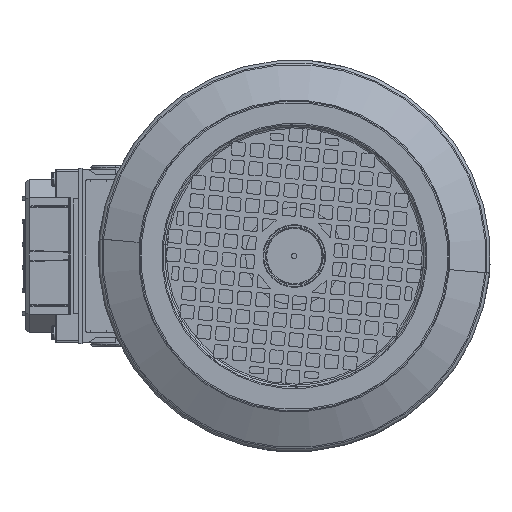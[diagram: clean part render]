
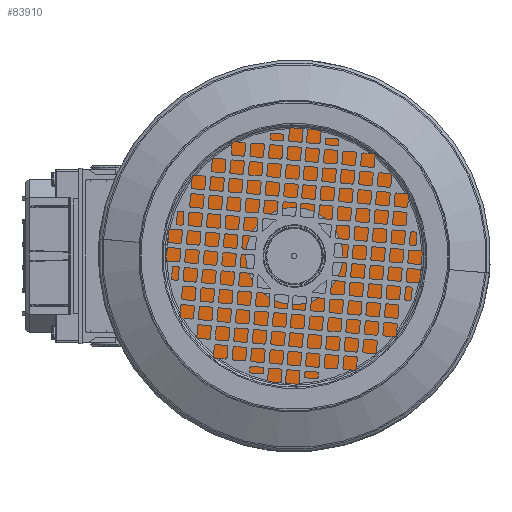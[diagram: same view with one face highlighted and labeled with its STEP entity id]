
A CAD part, left-side view. The second image highlights one B-rep face of the part: STEP entity #83910.
In plain terms, the highlighted planar face has unit normal (-1, 0, 0).
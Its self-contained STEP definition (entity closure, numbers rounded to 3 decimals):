
#86 = CARTESIAN_POINT ( 'NONE',  ( 0., 0., 27.5 ) ) ;
#1207 = CARTESIAN_POINT ( 'NONE',  ( 0., 2.967, -88.45 ) ) ;
#1359 = CARTESIAN_POINT ( 'NONE',  ( 0., 0., -98. ) ) ;
#1428 = AXIS2_PLACEMENT_3D ( 'NONE', #75783, #18765, #85353 ) ;
#3432 = EDGE_CURVE ( 'NONE', #5200, #31839, #74847, .T. ) ;
#3534 = CARTESIAN_POINT ( 'NONE',  ( 0., 0., 0. ) ) ;
#5200 = VERTEX_POINT ( 'NONE', #44485 ) ;
#9428 = DIRECTION ( 'NONE',  ( -1., 0., 0. ) ) ;
#9933 = CIRCLE ( 'NONE', #30216, 27.5 ) ;
#10000 = VERTEX_POINT ( 'NONE', #81688 ) ;
#10492 = CARTESIAN_POINT ( 'NONE',  ( 0., 0., 0. ) ) ;
#10930 = DIRECTION ( 'NONE',  ( 0., 0., 1. ) ) ;
#11485 = VERTEX_POINT ( 'NONE', #86 ) ;
#13112 = DIRECTION ( 'NONE',  ( 0., 0., 1. ) ) ;
#14859 = ORIENTED_EDGE ( 'NONE', *, *, #52911, .F. ) ;
#15115 = AXIS2_PLACEMENT_3D ( 'NONE', #54388, #120921, #64016 ) ;
#18765 = DIRECTION ( 'NONE',  ( 1., 0., 0. ) ) ;
#18857 = FACE_OUTER_BOUND ( 'NONE', #34713, .T. ) ;
#18962 = CARTESIAN_POINT ( 'NONE',  ( 0., 88.45, 2.967 ) ) ;
#19809 = CARTESIAN_POINT ( 'NONE',  ( 0., 0., 0. ) ) ;
#20065 = DIRECTION ( 'NONE',  ( 0., 0., 1. ) ) ;
#22155 = CARTESIAN_POINT ( 'NONE',  ( 0., 88.45, -2.967 ) ) ;
#26672 = EDGE_CURVE ( 'NONE', #5200, #29623, #76789, .T. ) ;
#27120 = AXIS2_PLACEMENT_3D ( 'NONE', #95916, #38914, #105457 ) ;
#29324 = DIRECTION ( 'NONE',  ( 0., 0., 1. ) ) ;
#29623 = VERTEX_POINT ( 'NONE', #1207 ) ;
#29647 = AXIS2_PLACEMENT_3D ( 'NONE', #3534, #70159, #13112 ) ;
#30216 = AXIS2_PLACEMENT_3D ( 'NONE', #30685, #97283, #40313 ) ;
#30685 = CARTESIAN_POINT ( 'NONE',  ( 0., 0., 0. ) ) ;
#31839 = VERTEX_POINT ( 'NONE', #103994 ) ;
#32089 = AXIS2_PLACEMENT_3D ( 'NONE', #1359, #67994, #10930 ) ;
#32819 = ORIENTED_EDGE ( 'NONE', *, *, #41016, .T. ) ;
#33852 = VERTEX_POINT ( 'NONE', #122587 ) ;
#34713 = EDGE_LOOP ( 'NONE', ( #40722, #32819, #76145, #91027, #76073, #58251, #104477, #81540, #94846 ) ) ;
#37672 = EDGE_CURVE ( 'NONE', #33852, #31839, #77612, .T. ) ;
#38680 = CARTESIAN_POINT ( 'NONE',  ( 0., -2.967, 88.45 ) ) ;
#38914 = DIRECTION ( 'NONE',  ( -1., 0., 0. ) ) ;
#40313 = DIRECTION ( 'NONE',  ( 0., 0., 1. ) ) ;
#40530 = VERTEX_POINT ( 'NONE', #38680 ) ;
#40722 = ORIENTED_EDGE ( 'NONE', *, *, #37672, .F. ) ;
#41016 = EDGE_CURVE ( 'NONE', #33852, #40530, #123431, .T. ) ;
#42897 = DIRECTION ( 'NONE',  ( -1., 0., 0. ) ) ;
#44485 = CARTESIAN_POINT ( 'NONE',  ( 0., -2.967, -88.45 ) ) ;
#45814 = DIRECTION ( 'NONE',  ( -1., 0., 0. ) ) ;
#46862 = CIRCLE ( 'NONE', #118183, 10. ) ;
#47384 = EDGE_CURVE ( 'NONE', #11485, #110985, #57592, .T. ) ;
#49462 = AXIS2_PLACEMENT_3D ( 'NONE', #19809, #86369, #29324 ) ;
#50134 = ORIENTED_EDGE ( 'NONE', *, *, #47384, .F. ) ;
#52911 = EDGE_CURVE ( 'NONE', #110985, #11485, #9933, .T. ) ;
#53097 = EDGE_CURVE ( 'NONE', #10000, #111991, #81344, .T. ) ;
#53229 = CARTESIAN_POINT ( 'NONE',  ( 0., 0., 88. ) ) ;
#53785 = EDGE_CURVE ( 'NONE', #95594, #111991, #96001, .T. ) ;
#54388 = CARTESIAN_POINT ( 'NONE',  ( 0., 0., 0. ) ) ;
#54497 = VERTEX_POINT ( 'NONE', #53229 ) ;
#55521 = CARTESIAN_POINT ( 'NONE',  ( 0., 0., 0. ) ) ;
#57592 = CIRCLE ( 'NONE', #29647, 27.5 ) ;
#58251 = ORIENTED_EDGE ( 'NONE', *, *, #53785, .F. ) ;
#58934 = EDGE_LOOP ( 'NONE', ( #50134, #14859 ) ) ;
#64016 = DIRECTION ( 'NONE',  ( 0., 0., 1. ) ) ;
#64608 = CARTESIAN_POINT ( 'NONE',  ( 0., 0., -27.5 ) ) ;
#65140 = DIRECTION ( 'NONE',  ( 0., 0., 1. ) ) ;
#66498 = CARTESIAN_POINT ( 'NONE',  ( 0., -98., 0. ) ) ;
#67994 = DIRECTION ( 'NONE',  ( -1., 0., 0. ) ) ;
#69494 = FACE_BOUND ( 'NONE', #58934, .T. ) ;
#70159 = DIRECTION ( 'NONE',  ( -1., 0., 0. ) ) ;
#74847 = CIRCLE ( 'NONE', #91707, 88.5 ) ;
#75783 = CARTESIAN_POINT ( 'NONE',  ( 0., 88.5, 0. ) ) ;
#76037 = DIRECTION ( 'NONE',  ( 0., 0., 1. ) ) ;
#76073 = ORIENTED_EDGE ( 'NONE', *, *, #53097, .T. ) ;
#76145 = ORIENTED_EDGE ( 'NONE', *, *, #120968, .F. ) ;
#76789 = CIRCLE ( 'NONE', #32089, 10. ) ;
#77121 = DIRECTION ( 'NONE',  ( -1., 0., 0. ) ) ;
#77612 = CIRCLE ( 'NONE', #97750, 10. ) ;
#81344 = CIRCLE ( 'NONE', #15115, 88.5 ) ;
#81540 = ORIENTED_EDGE ( 'NONE', *, *, #26672, .F. ) ;
#81688 = CARTESIAN_POINT ( 'NONE',  ( 0., 2.967, 88.45 ) ) ;
#83228 = PLANE ( 'NONE',  #1428 ) ;
#83910 = ADVANCED_FACE ( 'NONE', ( #69494, #18857 ), #83228, .F. ) ;
#85353 = DIRECTION ( 'NONE',  ( 0., 0., -1. ) ) ;
#86369 = DIRECTION ( 'NONE',  ( -1., 0., 0. ) ) ;
#89149 = CIRCLE ( 'NONE', #117837, 10. ) ;
#91027 = ORIENTED_EDGE ( 'NONE', *, *, #92439, .F. ) ;
#91707 = AXIS2_PLACEMENT_3D ( 'NONE', #10492, #77121, #20065 ) ;
#91899 = CIRCLE ( 'NONE', #117112, 88.5 ) ;
#92439 = EDGE_CURVE ( 'NONE', #10000, #54497, #89149, .T. ) ;
#93361 = EDGE_CURVE ( 'NONE', #95594, #29623, #91899, .T. ) ;
#94846 = ORIENTED_EDGE ( 'NONE', *, *, #3432, .T. ) ;
#95594 = VERTEX_POINT ( 'NONE', #22155 ) ;
#95916 = CARTESIAN_POINT ( 'NONE',  ( 0., 98., 0. ) ) ;
#96001 = CIRCLE ( 'NONE', #27120, 10. ) ;
#97283 = DIRECTION ( 'NONE',  ( -1., 0., 0. ) ) ;
#97750 = AXIS2_PLACEMENT_3D ( 'NONE', #66498, #9428, #76037 ) ;
#99883 = CARTESIAN_POINT ( 'NONE',  ( 0., 0., 98. ) ) ;
#102776 = CARTESIAN_POINT ( 'NONE',  ( 0., 0., 98. ) ) ;
#103994 = CARTESIAN_POINT ( 'NONE',  ( 0., -88.45, -2.967 ) ) ;
#104477 = ORIENTED_EDGE ( 'NONE', *, *, #93361, .T. ) ;
#105457 = DIRECTION ( 'NONE',  ( 0., 0., 1. ) ) ;
#109438 = DIRECTION ( 'NONE',  ( 0., 0., 1. ) ) ;
#110985 = VERTEX_POINT ( 'NONE', #64608 ) ;
#111991 = VERTEX_POINT ( 'NONE', #18962 ) ;
#112309 = DIRECTION ( 'NONE',  ( 0., 0., 1. ) ) ;
#117112 = AXIS2_PLACEMENT_3D ( 'NONE', #55521, #122075, #65140 ) ;
#117837 = AXIS2_PLACEMENT_3D ( 'NONE', #102776, #45814, #112309 ) ;
#118183 = AXIS2_PLACEMENT_3D ( 'NONE', #99883, #42897, #109438 ) ;
#120921 = DIRECTION ( 'NONE',  ( -1., 0., 0. ) ) ;
#120968 = EDGE_CURVE ( 'NONE', #54497, #40530, #46862, .T. ) ;
#122075 = DIRECTION ( 'NONE',  ( -1., 0., 0. ) ) ;
#122587 = CARTESIAN_POINT ( 'NONE',  ( 0., -88.45, 2.967 ) ) ;
#123431 = CIRCLE ( 'NONE', #49462, 88.5 ) ;
